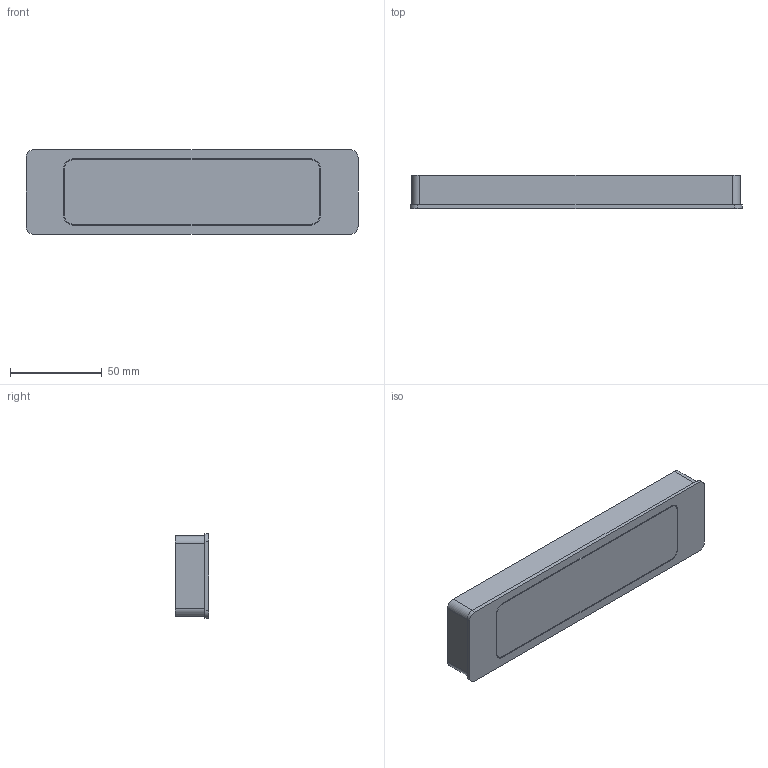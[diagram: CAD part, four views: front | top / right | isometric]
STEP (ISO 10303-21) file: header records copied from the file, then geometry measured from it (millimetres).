
FILE_DESCRIPTION( ( '' ), '1' );
FILE_NAME( 'C:/Documents and Settings/Nikhil/Desktop/Nik/Done/9086687.stp', '2013-10-23T07:45:05', ( '' ), ( '' ), ' ', ' ', ' ' );
FILE_SCHEMA( ( 'automotive_design' ) );
Length unit declared in the file: millimetre
Products named in the file (1): 1
Bounding box: 181 x 18 x 46 mm (x, y, z)
Volume: 141966.7 mm3; surface area: 25468.7 mm2
Topology: 1 solids, 1 shells, 43 faces, 108 edges, 72 vertices
Faces by surface type: plane 23, cylinder 20
Entity records: 2570 total; most frequent: DIRECTION 236, STYLED_ITEM 224, PRESENTATION_STYLE_ASSIGNMENT 224, CARTESIAN_POINT 224, COLOUR_RGB 224, ORIENTED_EDGE 216, EDGE_CURVE 108, CURVE_STYLE 108
